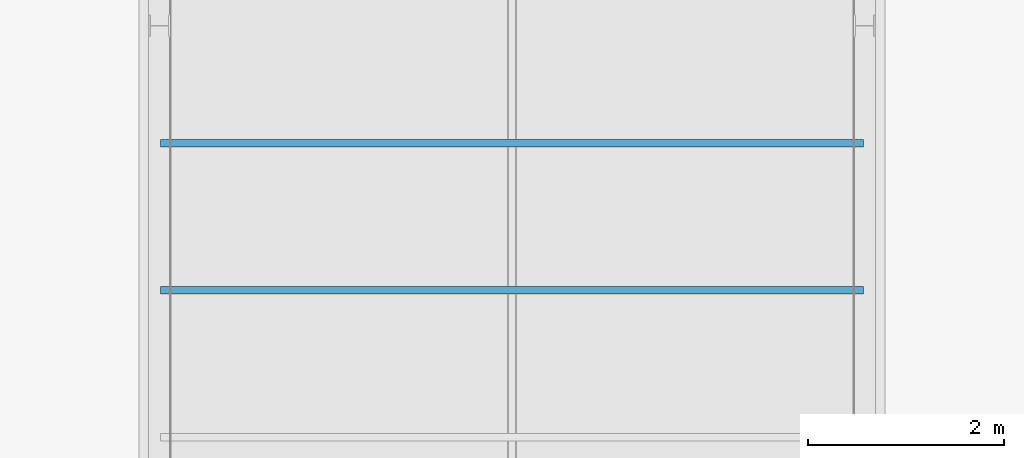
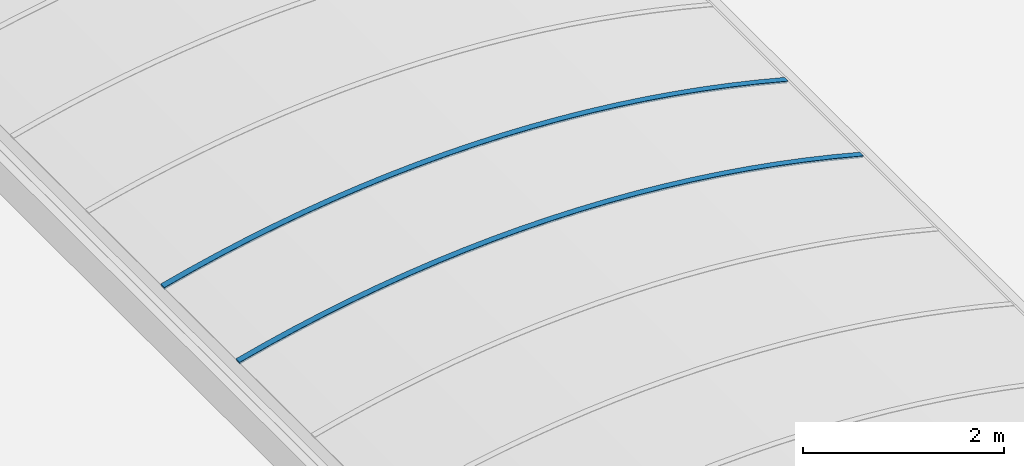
# One storey, part 56 of 81: 2 beams.
"""IFC2X3 building model written with IfcOpenShell, lengths in millimetres."""

from ifc_helpers import new_model, entity, si_unit, converted_unit, derived_unit, money_unit, direction, frame, origin_with_axes, place, context, subcontext, project, spatial, faceted_brep, material, material_list, type_object, element, save


model = new_model("IFC2X3")

# Units and contexts
model_context = context("Model", 3, precision=0.01, world=origin_with_axes(), true_north=direction((0.0, 1.0)))
body_context = subcontext(model_context, "Body", "Model", "MODEL_VIEW")
ifc_project = project(units=[si_unit("LENGTHUNIT", "METRE", prefix="MILLI"), si_unit("AREAUNIT", "SQUARE_METRE"), si_unit("VOLUMEUNIT", "CUBIC_METRE"), converted_unit("PLANEANGLEUNIT", "DEGREE", entity("IfcPlaneAngleMeasure", 0.0174532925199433), si_unit("PLANEANGLEUNIT", "RADIAN"), dimensions=[0, 0, 0, 0, 0, 0, 0]), money_unit("EUR"), converted_unit("TIMEUNIT", "Year", entity("IfcTimeMeasure", 31557600.0), si_unit("TIMEUNIT", "SECOND"), dimensions=[0, 0, 1, 0, 0, 0, 0]), si_unit("MASSUNIT", "GRAM", prefix="KILO"), si_unit("THERMODYNAMICTEMPERATUREUNIT", "DEGREE_CELSIUS"), si_unit("LUMINOUSINTENSITYUNIT", "LUMEN"), si_unit("ENERGYUNIT", "JOULE", prefix="MEGA"), derived_unit("THERMALCONDUCTANCEUNIT", [(si_unit("POWERUNIT", "WATT"), 1), (si_unit("LENGTHUNIT", "METRE"), -1), (si_unit("THERMODYNAMICTEMPERATUREUNIT", "KELVIN"), -1)]), derived_unit("SPECIFICHEATCAPACITYUNIT", [(si_unit("ENERGYUNIT", "JOULE"), 1), (si_unit("MASSUNIT", "GRAM", prefix="KILO"), -1), (si_unit("THERMODYNAMICTEMPERATUREUNIT", "KELVIN"), -1)]), derived_unit("MASSDENSITYUNIT", [(si_unit("MASSUNIT", "GRAM", prefix="KILO"), 1), (si_unit("VOLUMEUNIT", "CUBIC_METRE"), -1)])], contexts=[model_context])

# Site, building, storey
site_placement = place(None, origin_with_axes())
site = spatial("IfcSite", under=ifc_project, at=site_placement, Name="Site", CompositionType="ELEMENT")
building_placement = place(site_placement, origin_with_axes())
building = spatial("IfcBuilding", under=site, at=building_placement, Name="Naam gebouw", CompositionType="ELEMENT")
storey_placement = place(building_placement, frame((0.0, 0.0, 15320.0), z_axis=(0.0, 0.0, 1.0), x_axis=(1.0, 0.0, 0.0)))
storey = spatial("IfcBuildingStorey", under=building, at=storey_placement, Name="01 dak", CompositionType="ELEMENT", Elevation=15320.0)

# Beams
ifc_material = material(Name="Metaal - Aluminium AFW")
ifc_material_list = material_list([ifc_material, ifc_material])
beam_type = type_object("IfcBeamType", Name="lichtstraat polycarbonaat (constructie) 7420 x 670", PredefinedType="BEAM")
beam_1_placement = place(storey_placement, frame((105300.0, 80862.50000000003, 559.9999999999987), z_axis=(0.0, 0.0, 1.0), x_axis=(1.0, 0.0, 0.0)))
element("IfcBeam", 1, at=beam_1_placement, inside=storey, type_object=beam_type, material=ifc_material_list, Name="Plafondafwerking 3", ObjectType="BEAM", context=body_context, shape_type="Brep", body=[
    faceted_brep([(-3532.999999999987, 75.00000000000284, 192.1385480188), (-3532.999999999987, 0.0, 192.1385480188), (-3582.999999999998, 0.0, 179.000000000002), (-3582.999999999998, 75.00000000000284, 179.000000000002), (-3527.999999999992, 75.00000000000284, 193.4415530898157), (-3527.999999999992, 0.0, 193.4415530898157), (-2943.44844329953, 0.0, 337.3385317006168), (-3264.746952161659, 0.0, 264.2761146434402), (-3584.237010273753, 0.0, 183.6724462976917), (-3213.32287812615, 0.0, 271.5053933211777), (-2896.922437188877, 0.0, 342.2614189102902), (-2578.96836412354, 0.0, 405.6716830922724), (-2259.631179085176, 0.0, 461.7021786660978), (-1939.082143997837, 0.0, 510.3228562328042), (-1617.493170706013, 0.0, 551.5076403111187), (-1295.036728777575, 0.0, 585.2344433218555), (-971.8857530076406, 0.0, 611.485177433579), (-648.2135506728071, 0.0, 630.2457642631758), (-324.1937085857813, 0.0, 641.5061424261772), (0.0, 0.0, 645.2602729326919), (324.1937085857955, 0.0, 641.5061424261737), (648.2135506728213, 0.0, 630.2457642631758), (971.8857530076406, 0.0, 611.4851774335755), (1295.036728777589, 0.0, 585.2344433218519), (1617.493170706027, 0.0, 551.5076403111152), (1939.082143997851, 0.0, 510.3228562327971), (2259.63117908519, 0.0, 461.7021786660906), (2578.96836412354, 0.0, 405.6716830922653), (2896.922437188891, 0.0, 342.2614189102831), (3213.322878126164, 0.0, 271.5053933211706), (3528.000000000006, 0.0, 193.4415530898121), (3528.000000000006, 0.0, 194.0000000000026), (3533.000000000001, 0.0, 194.0000000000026), (3533.000000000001, 0.0, 192.1385480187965), (3582.999999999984, 0.0, 179.000000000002), (3584.237010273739, 0.0, 183.6724462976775), (3264.746952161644, 0.0, 264.2761146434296), (2943.448443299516, 0.0, 337.3385317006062), (2620.51946150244, 0.0, 402.8192257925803), (2296.138887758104, 0.0, 460.6819250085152), (1970.486407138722, 0.0, 510.8945772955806), (1643.742409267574, 0.0, 553.4293682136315), (1316.087888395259, 0.0, 588.2627363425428), (987.7043431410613, 0.0, 615.3753863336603), (658.7736759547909, 0.0, 634.7522995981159), (329.4780923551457, 0.0, 646.3827426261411), (0.0, 0.0, 650.2602729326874), (-329.4780923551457, 0.0, 646.3827426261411), (-658.7736759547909, 0.0, 634.7522995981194), (-987.7043431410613, 0.0, 615.375386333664), (-1316.087888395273, 0.0, 588.2627363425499), (-1643.742409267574, 0.0, 553.4293682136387), (-1970.486407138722, 0.0, 510.8945772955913), (-2296.138887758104, 0.0, 460.6819250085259), (-2620.519461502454, 0.0, 402.8192257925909), (-3584.237010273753, 75.00000000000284, 183.6724462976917), (-3213.32287812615, 75.00000000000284, 271.5053933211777), (-3264.746952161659, 75.00000000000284, 264.2761146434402), (-2943.44844329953, 75.00000000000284, 337.3385317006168), (-2620.519461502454, 75.00000000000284, 402.8192257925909), (-2296.138887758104, 75.00000000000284, 460.6819250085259), (-1970.486407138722, 75.00000000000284, 510.8945772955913), (-1643.742409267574, 75.00000000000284, 553.4293682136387), (-1316.087888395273, 75.00000000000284, 588.2627363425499), (-987.7043431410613, 75.00000000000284, 615.375386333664), (-658.7736759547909, 75.00000000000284, 634.7522995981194), (-329.4780923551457, 75.00000000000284, 646.3827426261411), (0.0, 75.00000000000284, 650.2602729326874), (329.4780923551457, 75.00000000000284, 646.3827426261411), (658.7736759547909, 75.00000000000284, 634.7522995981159), (987.7043431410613, 75.00000000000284, 615.3753863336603), (1316.087888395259, 75.00000000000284, 588.2627363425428), (1643.742409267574, 75.00000000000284, 553.4293682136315), (1970.486407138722, 75.00000000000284, 510.8945772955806), (2296.138887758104, 75.00000000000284, 460.6819250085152), (2620.51946150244, 75.00000000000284, 402.8192257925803), (2943.448443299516, 75.00000000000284, 337.3385317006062), (3264.746952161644, 75.00000000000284, 264.2761146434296), (3584.237010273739, 75.00000000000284, 183.6724462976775), (3582.999999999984, 75.00000000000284, 179.000000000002), (3533.000000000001, 75.00000000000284, 192.1385480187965), (3533.000000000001, 75.00000000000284, 194.0000000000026), (3528.000000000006, 75.00000000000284, 194.0000000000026), (3528.000000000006, 75.00000000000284, 193.4415530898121), (3213.322878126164, 75.00000000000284, 271.5053933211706), (2896.922437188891, 75.00000000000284, 342.2614189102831), (2578.96836412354, 75.00000000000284, 405.6716830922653), (2259.63117908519, 75.00000000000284, 461.7021786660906), (1939.082143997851, 75.00000000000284, 510.3228562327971), (1617.493170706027, 75.00000000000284, 551.5076403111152), (1295.036728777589, 75.00000000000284, 585.2344433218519), (971.8857530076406, 75.00000000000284, 611.4851774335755), (648.2135506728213, 75.00000000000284, 630.2457642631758), (324.1937085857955, 75.00000000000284, 641.5061424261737), (0.0, 75.00000000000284, 645.2602729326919), (-324.1937085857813, 75.00000000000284, 641.5061424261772), (-648.2135506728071, 75.00000000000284, 630.2457642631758), (-971.8857530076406, 75.00000000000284, 611.485177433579), (-1295.036728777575, 75.00000000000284, 585.2344433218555), (-1617.493170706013, 75.00000000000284, 551.5076403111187), (-1939.082143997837, 75.00000000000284, 510.3228562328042), (-2259.631179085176, 75.00000000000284, 461.7021786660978), (-2578.96836412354, 75.00000000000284, 405.6716830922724), (-2896.922437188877, 75.00000000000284, 342.2614189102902)], [[[0, 1, 2, 3]], [[4, 5, 1, 0]], [[6, 7, 8, 2, 1, 5, 9, 10, 11, 12, 13, 14, 15, 16, 17, 18, 19, 20, 21, 22, 23, 24, 25, 26, 27, 28, 29, 30, 31, 32, 33, 34, 35, 36, 37, 38, 39, 40, 41, 42, 43, 44, 45, 46, 47, 48, 49, 50, 51, 52, 53, 54]], [[3, 2, 8, 55]], [[56, 4, 0, 3, 55, 57, 58, 59, 60, 61, 62, 63, 64, 65, 66, 67, 68, 69, 70, 71, 72, 73, 74, 75, 76, 77, 78, 79, 80, 81, 82, 83, 84, 85, 86, 87, 88, 89, 90, 91, 92, 93, 94, 95, 96, 97, 98, 99, 100, 101, 102, 103]], [[56, 9, 5, 4]], [[57, 7, 6, 58]], [[55, 8, 7, 57]], [[103, 10, 9, 56]], [[102, 11, 10, 103]], [[101, 12, 11, 102]], [[100, 13, 12, 101]], [[99, 14, 13, 100]], [[98, 15, 14, 99]], [[97, 16, 15, 98]], [[96, 17, 16, 97]], [[95, 18, 17, 96]], [[94, 19, 18, 95]], [[93, 20, 19, 94]], [[92, 21, 20, 93]], [[91, 22, 21, 92]], [[90, 23, 22, 91]], [[89, 24, 23, 90]], [[88, 25, 24, 89]], [[87, 26, 25, 88]], [[86, 27, 26, 87]], [[85, 28, 27, 86]], [[84, 29, 28, 85]], [[83, 30, 29, 84]], [[82, 31, 30, 83]], [[81, 32, 31, 82]], [[80, 33, 32, 81]], [[79, 34, 33, 80]], [[78, 35, 34, 79]], [[77, 36, 35, 78]], [[76, 37, 36, 77]], [[75, 38, 37, 76]], [[74, 39, 38, 75]], [[73, 40, 39, 74]], [[72, 41, 40, 73]], [[71, 42, 41, 72]], [[70, 43, 42, 71]], [[69, 44, 43, 70]], [[68, 45, 44, 69]], [[67, 46, 45, 68]], [[66, 47, 46, 67]], [[65, 48, 47, 66]], [[64, 49, 48, 65]], [[63, 50, 49, 64]], [[62, 51, 50, 63]], [[61, 52, 51, 62]], [[60, 53, 52, 61]], [[59, 54, 53, 60]], [[58, 6, 54, 59]]]),
    faceted_brep([(3269.271727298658, 75.00000000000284, 283.190243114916), (2947.542627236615, 75.00000000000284, 356.4574241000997), (2947.542627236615, 0.0, 356.4574241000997), (3269.271727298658, 0.0, 283.190243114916), (3589.184752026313, 75.00000000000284, 202.3611008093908), (3587.947861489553, 75.00000000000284, 197.6891067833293), (3528.000000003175, 75.00000000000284, 213.4415530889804), (3213.322878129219, 75.00000000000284, 291.505393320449), (2896.922437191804, 75.00000000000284, 362.2614189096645), (2578.968364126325, 75.00000000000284, 425.6716830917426), (2259.631179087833, 75.00000000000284, 481.7021786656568), (1939.082144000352, 75.00000000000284, 530.3228562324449), (1617.493170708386, 75.00000000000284, 571.5076403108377), (1295.036728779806, 75.00000000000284, 605.2344433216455), (971.8857530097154, 75.00000000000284, 631.4851774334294), (648.2135506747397, 75.00000000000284, 650.2457642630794), (324.1937085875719, 75.00000000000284, 661.5061424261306), (1.63424829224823e-09, 75.00000000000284, 665.2602729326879), (-324.1937085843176, 75.00000000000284, 661.5061424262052), (-648.2135506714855, 75.00000000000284, 650.2457642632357), (-971.8857530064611, 75.00000000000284, 631.4851774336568), (-1295.036728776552, 75.00000000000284, 605.2344433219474), (-1617.493170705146, 75.00000000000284, 571.5076403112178), (-1939.082143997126, 75.00000000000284, 530.3228562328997), (-2259.631179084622, 75.00000000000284, 481.7021786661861), (-2578.968364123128, 75.00000000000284, 425.6716830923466), (-2896.922437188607, 75.00000000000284, 362.2614189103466), (-3213.322878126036, 75.00000000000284, 291.5053933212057), (-3528.00000000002, 75.00000000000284, 213.4415530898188), (-3533.000000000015, 75.00000000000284, 212.1385480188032), (-3587.947861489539, 75.00000000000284, 197.6891067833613), (-3589.184752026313, 75.00000000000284, 202.3611008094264), (-3269.271727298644, 75.00000000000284, 283.1902431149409), (-2947.542627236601, 75.00000000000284, 356.4574241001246), (-2624.176171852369, 75.00000000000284, 422.1219439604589), (-2299.351990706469, 75.00000000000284, 480.1473261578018), (-1973.250523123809, 75.00000000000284, 530.5013376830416), (-1646.052917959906, 75.00000000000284, 573.156006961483), (-1317.940932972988, 75.00000000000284, 608.0876393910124), (-989.0968338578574, 75.00000000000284, 635.2768305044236), (-659.7032929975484, 75.00000000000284, 654.7084767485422), (-329.9432879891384, 75.00000000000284, 666.3717838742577), (0.0, 75.00000000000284, 670.2602729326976), (329.9432879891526, 75.00000000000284, 666.3717838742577), (659.7032929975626, 75.00000000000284, 654.7084767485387), (989.0968338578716, 75.00000000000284, 635.2768305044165), (1317.940932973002, 75.00000000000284, 608.0876393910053), (1646.052917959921, 75.00000000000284, 573.1560069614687), (1973.250523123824, 75.00000000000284, 530.5013376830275), (2299.351990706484, 75.00000000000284, 480.147326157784), (2624.176171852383, 75.00000000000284, 422.1219439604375), (2624.176171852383, 0.0, 422.1219439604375), (2299.351990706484, 0.0, 480.147326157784), (1973.250523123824, 0.0, 530.5013376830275), (1646.052917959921, 0.0, 573.1560069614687), (1317.940932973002, 0.0, 608.0876393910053), (989.0968338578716, 0.0, 635.2768305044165), (659.7032929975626, 0.0, 654.7084767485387), (329.9432879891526, 0.0, 666.3717838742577), (0.0, 0.0, 670.2602729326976), (-329.9432879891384, 0.0, 666.3717838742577), (-659.7032929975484, 0.0, 654.7084767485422), (-989.0968338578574, 0.0, 635.2768305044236), (-1317.940932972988, 0.0, 608.0876393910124), (-1646.052917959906, 0.0, 573.156006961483), (-1973.250523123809, 0.0, 530.5013376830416), (-2299.351990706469, 0.0, 480.1473261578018), (-2624.176171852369, 0.0, 422.1219439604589), (-2947.542627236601, 0.0, 356.4574241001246), (-3269.271727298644, 0.0, 283.1902431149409), (-3589.184752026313, 0.0, 202.3611008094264), (-3587.947861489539, 0.0, 197.6891067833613), (-3533.000000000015, 0.0, 212.1385480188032), (-3528.00000000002, 0.0, 213.4415530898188), (-3213.322878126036, 0.0, 291.5053933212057), (-2896.922437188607, 0.0, 362.2614189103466), (-2578.968364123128, 0.0, 425.6716830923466), (-2259.631179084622, 0.0, 481.7021786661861), (-1939.082143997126, 0.0, 530.3228562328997), (-1617.493170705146, 0.0, 571.5076403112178), (-1295.036728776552, 0.0, 605.2344433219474), (-971.8857530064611, 0.0, 631.4851774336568), (-648.2135506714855, 0.0, 650.2457642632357), (-324.1937085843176, 0.0, 661.5061424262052), (1.63424829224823e-09, 0.0, 665.2602729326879), (324.1937085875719, 0.0, 661.5061424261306), (648.2135506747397, 0.0, 650.2457642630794), (971.8857530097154, 0.0, 631.4851774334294), (1295.036728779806, 0.0, 605.2344433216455), (1617.493170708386, 0.0, 571.5076403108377), (1939.082144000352, 0.0, 530.3228562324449), (2259.631179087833, 0.0, 481.7021786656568), (2578.968364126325, 0.0, 425.6716830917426), (2896.922437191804, 0.0, 362.2614189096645), (3213.322878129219, 0.0, 291.505393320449), (3528.000000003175, 0.0, 213.4415530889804), (3587.947861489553, 0.0, 197.6891067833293), (3589.184752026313, 0.0, 202.3611008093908)], [[[0, 1, 2, 3]], [[0, 4, 5, 6, 7, 8, 9, 10, 11, 12, 13, 14, 15, 16, 17, 18, 19, 20, 21, 22, 23, 24, 25, 26, 27, 28, 29, 30, 31, 32, 33, 34, 35, 36, 37, 38, 39, 40, 41, 42, 43, 44, 45, 46, 47, 48, 49, 50, 1]], [[1, 50, 51, 2]], [[3, 2, 51, 52, 53, 54, 55, 56, 57, 58, 59, 60, 61, 62, 63, 64, 65, 66, 67, 68, 69, 70, 71, 72, 73, 74, 75, 76, 77, 78, 79, 80, 81, 82, 83, 84, 85, 86, 87, 88, 89, 90, 91, 92, 93, 94, 95, 96, 97]], [[4, 0, 3, 97]], [[5, 4, 97, 96]], [[6, 5, 96, 95]], [[7, 6, 95, 94]], [[8, 7, 94, 93]], [[9, 8, 93, 92]], [[10, 9, 92, 91]], [[11, 10, 91, 90]], [[12, 11, 90, 89]], [[13, 12, 89, 88]], [[14, 13, 88, 87]], [[15, 14, 87, 86]], [[16, 15, 86, 85]], [[17, 16, 85, 84]], [[18, 17, 84, 83]], [[19, 18, 83, 82]], [[20, 19, 82, 81]], [[21, 20, 81, 80]], [[22, 21, 80, 79]], [[23, 22, 79, 78]], [[24, 23, 78, 77]], [[25, 24, 77, 76]], [[26, 25, 76, 75]], [[27, 26, 75, 74]], [[28, 27, 74, 73]], [[29, 28, 73, 72]], [[30, 29, 72, 71]], [[31, 30, 71, 70]], [[32, 31, 70, 69]], [[33, 32, 69, 68]], [[34, 33, 68, 67]], [[35, 34, 67, 66]], [[36, 35, 66, 65]], [[37, 36, 65, 64]], [[38, 37, 64, 63]], [[39, 38, 63, 62]], [[40, 39, 62, 61]], [[41, 40, 61, 60]], [[42, 41, 60, 59]], [[43, 42, 59, 58]], [[44, 43, 58, 57]], [[45, 44, 57, 56]], [[46, 45, 56, 55]], [[47, 46, 55, 54]], [[48, 47, 54, 53]], [[49, 48, 53, 52]], [[50, 49, 52, 51]]]),
])
beam_2_placement = place(storey_placement, frame((105300.0, 82362.50000000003, 559.9999999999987), z_axis=(0.0, 0.0, 1.0), x_axis=(1.0, 0.0, 0.0)))
element("IfcBeam", 2, at=beam_2_placement, inside=storey, type_object=beam_type, material=ifc_material_list, Name="Plafondafwerking 3", ObjectType="BEAM", context=body_context, shape_type="Brep", body=[
    faceted_brep([(-3532.999999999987, 75.00000000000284, 192.1385480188), (-3532.999999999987, 0.0, 192.1385480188), (-3582.999999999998, 0.0, 179.000000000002), (-3582.999999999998, 75.00000000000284, 179.000000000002), (-3527.999999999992, 75.00000000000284, 193.4415530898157), (-3527.999999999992, 0.0, 193.4415530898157), (-2943.44844329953, 0.0, 337.3385317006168), (-3264.746952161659, 0.0, 264.2761146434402), (-3584.237010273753, 0.0, 183.6724462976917), (-3213.32287812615, 0.0, 271.5053933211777), (-2896.922437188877, 0.0, 342.2614189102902), (-2578.96836412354, 0.0, 405.6716830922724), (-2259.631179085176, 0.0, 461.7021786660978), (-1939.082143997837, 0.0, 510.3228562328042), (-1617.493170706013, 0.0, 551.5076403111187), (-1295.036728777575, 0.0, 585.2344433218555), (-971.8857530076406, 0.0, 611.485177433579), (-648.2135506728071, 0.0, 630.2457642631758), (-324.1937085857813, 0.0, 641.5061424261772), (0.0, 0.0, 645.2602729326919), (324.1937085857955, 0.0, 641.5061424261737), (648.2135506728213, 0.0, 630.2457642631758), (971.8857530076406, 0.0, 611.4851774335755), (1295.036728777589, 0.0, 585.2344433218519), (1617.493170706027, 0.0, 551.5076403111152), (1939.082143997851, 0.0, 510.3228562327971), (2259.63117908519, 0.0, 461.7021786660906), (2578.96836412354, 0.0, 405.6716830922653), (2896.922437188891, 0.0, 342.2614189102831), (3213.322878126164, 0.0, 271.5053933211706), (3528.000000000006, 0.0, 193.4415530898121), (3528.000000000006, 0.0, 194.0000000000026), (3533.000000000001, 0.0, 194.0000000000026), (3533.000000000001, 0.0, 192.1385480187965), (3582.999999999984, 0.0, 179.000000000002), (3584.237010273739, 0.0, 183.6724462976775), (3264.746952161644, 0.0, 264.2761146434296), (2943.448443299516, 0.0, 337.3385317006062), (2620.51946150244, 0.0, 402.8192257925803), (2296.138887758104, 0.0, 460.6819250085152), (1970.486407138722, 0.0, 510.8945772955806), (1643.742409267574, 0.0, 553.4293682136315), (1316.087888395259, 0.0, 588.2627363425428), (987.7043431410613, 0.0, 615.3753863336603), (658.7736759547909, 0.0, 634.7522995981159), (329.4780923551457, 0.0, 646.3827426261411), (0.0, 0.0, 650.2602729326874), (-329.4780923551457, 0.0, 646.3827426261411), (-658.7736759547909, 0.0, 634.7522995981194), (-987.7043431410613, 0.0, 615.375386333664), (-1316.087888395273, 0.0, 588.2627363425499), (-1643.742409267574, 0.0, 553.4293682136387), (-1970.486407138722, 0.0, 510.8945772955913), (-2296.138887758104, 0.0, 460.6819250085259), (-2620.519461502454, 0.0, 402.8192257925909), (-3584.237010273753, 75.00000000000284, 183.6724462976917), (-3213.32287812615, 75.00000000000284, 271.5053933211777), (-3264.746952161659, 75.00000000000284, 264.2761146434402), (-2943.44844329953, 75.00000000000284, 337.3385317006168), (-2620.519461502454, 75.00000000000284, 402.8192257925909), (-2296.138887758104, 75.00000000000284, 460.6819250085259), (-1970.486407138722, 75.00000000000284, 510.8945772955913), (-1643.742409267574, 75.00000000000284, 553.4293682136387), (-1316.087888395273, 75.00000000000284, 588.2627363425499), (-987.7043431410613, 75.00000000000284, 615.375386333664), (-658.7736759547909, 75.00000000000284, 634.7522995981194), (-329.4780923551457, 75.00000000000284, 646.3827426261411), (0.0, 75.00000000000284, 650.2602729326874), (329.4780923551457, 75.00000000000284, 646.3827426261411), (658.7736759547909, 75.00000000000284, 634.7522995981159), (987.7043431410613, 75.00000000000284, 615.3753863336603), (1316.087888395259, 75.00000000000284, 588.2627363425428), (1643.742409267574, 75.00000000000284, 553.4293682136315), (1970.486407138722, 75.00000000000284, 510.8945772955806), (2296.138887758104, 75.00000000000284, 460.6819250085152), (2620.51946150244, 75.00000000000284, 402.8192257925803), (2943.448443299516, 75.00000000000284, 337.3385317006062), (3264.746952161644, 75.00000000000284, 264.2761146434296), (3584.237010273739, 75.00000000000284, 183.6724462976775), (3582.999999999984, 75.00000000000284, 179.000000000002), (3533.000000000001, 75.00000000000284, 192.1385480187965), (3533.000000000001, 75.00000000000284, 194.0000000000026), (3528.000000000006, 75.00000000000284, 194.0000000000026), (3528.000000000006, 75.00000000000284, 193.4415530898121), (3213.322878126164, 75.00000000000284, 271.5053933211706), (2896.922437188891, 75.00000000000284, 342.2614189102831), (2578.96836412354, 75.00000000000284, 405.6716830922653), (2259.63117908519, 75.00000000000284, 461.7021786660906), (1939.082143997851, 75.00000000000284, 510.3228562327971), (1617.493170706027, 75.00000000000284, 551.5076403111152), (1295.036728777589, 75.00000000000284, 585.2344433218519), (971.8857530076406, 75.00000000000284, 611.4851774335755), (648.2135506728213, 75.00000000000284, 630.2457642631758), (324.1937085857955, 75.00000000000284, 641.5061424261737), (0.0, 75.00000000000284, 645.2602729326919), (-324.1937085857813, 75.00000000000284, 641.5061424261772), (-648.2135506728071, 75.00000000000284, 630.2457642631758), (-971.8857530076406, 75.00000000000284, 611.485177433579), (-1295.036728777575, 75.00000000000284, 585.2344433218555), (-1617.493170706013, 75.00000000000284, 551.5076403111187), (-1939.082143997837, 75.00000000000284, 510.3228562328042), (-2259.631179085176, 75.00000000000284, 461.7021786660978), (-2578.96836412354, 75.00000000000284, 405.6716830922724), (-2896.922437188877, 75.00000000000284, 342.2614189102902)], [[[0, 1, 2, 3]], [[4, 5, 1, 0]], [[6, 7, 8, 2, 1, 5, 9, 10, 11, 12, 13, 14, 15, 16, 17, 18, 19, 20, 21, 22, 23, 24, 25, 26, 27, 28, 29, 30, 31, 32, 33, 34, 35, 36, 37, 38, 39, 40, 41, 42, 43, 44, 45, 46, 47, 48, 49, 50, 51, 52, 53, 54]], [[3, 2, 8, 55]], [[56, 4, 0, 3, 55, 57, 58, 59, 60, 61, 62, 63, 64, 65, 66, 67, 68, 69, 70, 71, 72, 73, 74, 75, 76, 77, 78, 79, 80, 81, 82, 83, 84, 85, 86, 87, 88, 89, 90, 91, 92, 93, 94, 95, 96, 97, 98, 99, 100, 101, 102, 103]], [[56, 9, 5, 4]], [[57, 7, 6, 58]], [[55, 8, 7, 57]], [[103, 10, 9, 56]], [[102, 11, 10, 103]], [[101, 12, 11, 102]], [[100, 13, 12, 101]], [[99, 14, 13, 100]], [[98, 15, 14, 99]], [[97, 16, 15, 98]], [[96, 17, 16, 97]], [[95, 18, 17, 96]], [[94, 19, 18, 95]], [[93, 20, 19, 94]], [[92, 21, 20, 93]], [[91, 22, 21, 92]], [[90, 23, 22, 91]], [[89, 24, 23, 90]], [[88, 25, 24, 89]], [[87, 26, 25, 88]], [[86, 27, 26, 87]], [[85, 28, 27, 86]], [[84, 29, 28, 85]], [[83, 30, 29, 84]], [[82, 31, 30, 83]], [[81, 32, 31, 82]], [[80, 33, 32, 81]], [[79, 34, 33, 80]], [[78, 35, 34, 79]], [[77, 36, 35, 78]], [[76, 37, 36, 77]], [[75, 38, 37, 76]], [[74, 39, 38, 75]], [[73, 40, 39, 74]], [[72, 41, 40, 73]], [[71, 42, 41, 72]], [[70, 43, 42, 71]], [[69, 44, 43, 70]], [[68, 45, 44, 69]], [[67, 46, 45, 68]], [[66, 47, 46, 67]], [[65, 48, 47, 66]], [[64, 49, 48, 65]], [[63, 50, 49, 64]], [[62, 51, 50, 63]], [[61, 52, 51, 62]], [[60, 53, 52, 61]], [[59, 54, 53, 60]], [[58, 6, 54, 59]]]),
    faceted_brep([(3269.271727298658, 75.00000000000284, 283.190243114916), (2947.542627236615, 75.00000000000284, 356.4574241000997), (2947.542627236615, 0.0, 356.4574241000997), (3269.271727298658, 0.0, 283.190243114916), (3589.184752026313, 75.00000000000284, 202.3611008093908), (3587.947861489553, 75.00000000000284, 197.6891067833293), (3528.000000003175, 75.00000000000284, 213.4415530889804), (3213.322878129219, 75.00000000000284, 291.505393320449), (2896.922437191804, 75.00000000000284, 362.2614189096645), (2578.968364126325, 75.00000000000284, 425.6716830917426), (2259.631179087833, 75.00000000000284, 481.7021786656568), (1939.082144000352, 75.00000000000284, 530.3228562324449), (1617.493170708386, 75.00000000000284, 571.5076403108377), (1295.036728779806, 75.00000000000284, 605.2344433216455), (971.8857530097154, 75.00000000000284, 631.4851774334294), (648.2135506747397, 75.00000000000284, 650.2457642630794), (324.1937085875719, 75.00000000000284, 661.5061424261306), (1.63424829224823e-09, 75.00000000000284, 665.2602729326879), (-324.1937085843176, 75.00000000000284, 661.5061424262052), (-648.2135506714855, 75.00000000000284, 650.2457642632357), (-971.8857530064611, 75.00000000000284, 631.4851774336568), (-1295.036728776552, 75.00000000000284, 605.2344433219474), (-1617.493170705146, 75.00000000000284, 571.5076403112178), (-1939.082143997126, 75.00000000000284, 530.3228562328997), (-2259.631179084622, 75.00000000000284, 481.7021786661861), (-2578.968364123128, 75.00000000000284, 425.6716830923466), (-2896.922437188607, 75.00000000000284, 362.2614189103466), (-3213.322878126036, 75.00000000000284, 291.5053933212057), (-3528.00000000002, 75.00000000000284, 213.4415530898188), (-3533.000000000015, 75.00000000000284, 212.1385480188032), (-3587.947861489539, 75.00000000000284, 197.6891067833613), (-3589.184752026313, 75.00000000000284, 202.3611008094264), (-3269.271727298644, 75.00000000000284, 283.1902431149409), (-2947.542627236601, 75.00000000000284, 356.4574241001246), (-2624.176171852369, 75.00000000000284, 422.1219439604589), (-2299.351990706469, 75.00000000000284, 480.1473261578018), (-1973.250523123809, 75.00000000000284, 530.5013376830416), (-1646.052917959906, 75.00000000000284, 573.156006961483), (-1317.940932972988, 75.00000000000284, 608.0876393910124), (-989.0968338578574, 75.00000000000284, 635.2768305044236), (-659.7032929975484, 75.00000000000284, 654.7084767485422), (-329.9432879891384, 75.00000000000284, 666.3717838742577), (0.0, 75.00000000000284, 670.2602729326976), (329.9432879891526, 75.00000000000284, 666.3717838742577), (659.7032929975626, 75.00000000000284, 654.7084767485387), (989.0968338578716, 75.00000000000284, 635.2768305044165), (1317.940932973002, 75.00000000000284, 608.0876393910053), (1646.052917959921, 75.00000000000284, 573.1560069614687), (1973.250523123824, 75.00000000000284, 530.5013376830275), (2299.351990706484, 75.00000000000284, 480.147326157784), (2624.176171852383, 75.00000000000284, 422.1219439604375), (2624.176171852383, 0.0, 422.1219439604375), (2299.351990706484, 0.0, 480.147326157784), (1973.250523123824, 0.0, 530.5013376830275), (1646.052917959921, 0.0, 573.1560069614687), (1317.940932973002, 0.0, 608.0876393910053), (989.0968338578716, 0.0, 635.2768305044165), (659.7032929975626, 0.0, 654.7084767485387), (329.9432879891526, 0.0, 666.3717838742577), (0.0, 0.0, 670.2602729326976), (-329.9432879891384, 0.0, 666.3717838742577), (-659.7032929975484, 0.0, 654.7084767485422), (-989.0968338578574, 0.0, 635.2768305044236), (-1317.940932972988, 0.0, 608.0876393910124), (-1646.052917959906, 0.0, 573.156006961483), (-1973.250523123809, 0.0, 530.5013376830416), (-2299.351990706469, 0.0, 480.1473261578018), (-2624.176171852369, 0.0, 422.1219439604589), (-2947.542627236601, 0.0, 356.4574241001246), (-3269.271727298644, 0.0, 283.1902431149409), (-3589.184752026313, 0.0, 202.3611008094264), (-3587.947861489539, 0.0, 197.6891067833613), (-3533.000000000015, 0.0, 212.1385480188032), (-3528.00000000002, 0.0, 213.4415530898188), (-3213.322878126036, 0.0, 291.5053933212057), (-2896.922437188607, 0.0, 362.2614189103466), (-2578.968364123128, 0.0, 425.6716830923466), (-2259.631179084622, 0.0, 481.7021786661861), (-1939.082143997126, 0.0, 530.3228562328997), (-1617.493170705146, 0.0, 571.5076403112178), (-1295.036728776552, 0.0, 605.2344433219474), (-971.8857530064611, 0.0, 631.4851774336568), (-648.2135506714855, 0.0, 650.2457642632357), (-324.1937085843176, 0.0, 661.5061424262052), (1.63424829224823e-09, 0.0, 665.2602729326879), (324.1937085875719, 0.0, 661.5061424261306), (648.2135506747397, 0.0, 650.2457642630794), (971.8857530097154, 0.0, 631.4851774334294), (1295.036728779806, 0.0, 605.2344433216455), (1617.493170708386, 0.0, 571.5076403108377), (1939.082144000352, 0.0, 530.3228562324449), (2259.631179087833, 0.0, 481.7021786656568), (2578.968364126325, 0.0, 425.6716830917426), (2896.922437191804, 0.0, 362.2614189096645), (3213.322878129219, 0.0, 291.505393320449), (3528.000000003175, 0.0, 213.4415530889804), (3587.947861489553, 0.0, 197.6891067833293), (3589.184752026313, 0.0, 202.3611008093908)], [[[0, 1, 2, 3]], [[0, 4, 5, 6, 7, 8, 9, 10, 11, 12, 13, 14, 15, 16, 17, 18, 19, 20, 21, 22, 23, 24, 25, 26, 27, 28, 29, 30, 31, 32, 33, 34, 35, 36, 37, 38, 39, 40, 41, 42, 43, 44, 45, 46, 47, 48, 49, 50, 1]], [[1, 50, 51, 2]], [[3, 2, 51, 52, 53, 54, 55, 56, 57, 58, 59, 60, 61, 62, 63, 64, 65, 66, 67, 68, 69, 70, 71, 72, 73, 74, 75, 76, 77, 78, 79, 80, 81, 82, 83, 84, 85, 86, 87, 88, 89, 90, 91, 92, 93, 94, 95, 96, 97]], [[4, 0, 3, 97]], [[5, 4, 97, 96]], [[6, 5, 96, 95]], [[7, 6, 95, 94]], [[8, 7, 94, 93]], [[9, 8, 93, 92]], [[10, 9, 92, 91]], [[11, 10, 91, 90]], [[12, 11, 90, 89]], [[13, 12, 89, 88]], [[14, 13, 88, 87]], [[15, 14, 87, 86]], [[16, 15, 86, 85]], [[17, 16, 85, 84]], [[18, 17, 84, 83]], [[19, 18, 83, 82]], [[20, 19, 82, 81]], [[21, 20, 81, 80]], [[22, 21, 80, 79]], [[23, 22, 79, 78]], [[24, 23, 78, 77]], [[25, 24, 77, 76]], [[26, 25, 76, 75]], [[27, 26, 75, 74]], [[28, 27, 74, 73]], [[29, 28, 73, 72]], [[30, 29, 72, 71]], [[31, 30, 71, 70]], [[32, 31, 70, 69]], [[33, 32, 69, 68]], [[34, 33, 68, 67]], [[35, 34, 67, 66]], [[36, 35, 66, 65]], [[37, 36, 65, 64]], [[38, 37, 64, 63]], [[39, 38, 63, 62]], [[40, 39, 62, 61]], [[41, 40, 61, 60]], [[42, 41, 60, 59]], [[43, 42, 59, 58]], [[44, 43, 58, 57]], [[45, 44, 57, 56]], [[46, 45, 56, 55]], [[47, 46, 55, 54]], [[48, 47, 54, 53]], [[49, 48, 53, 52]], [[50, 49, 52, 51]]]),
])

save(model, "model.ifc")
